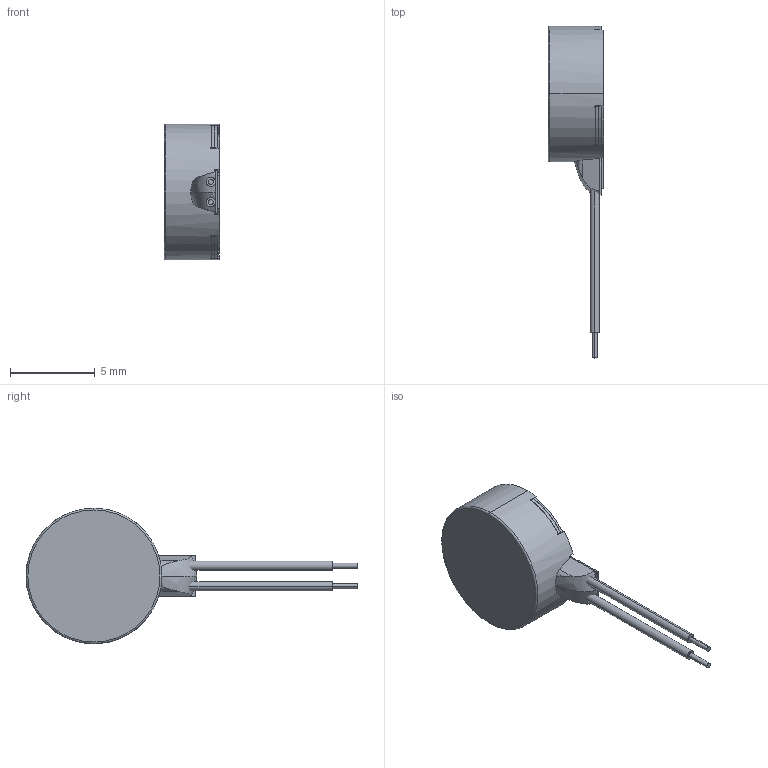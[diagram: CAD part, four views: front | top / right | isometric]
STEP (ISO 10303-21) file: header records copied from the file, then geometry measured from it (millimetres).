
FILE_DESCRIPTION(('FreeCAD Model'),'2;1');
FILE_NAME('Open CASCADE Shape Model','2026-06-02T18:00:03',(''),(''), 'Open CASCADE STEP processor 7.8','FreeCAD','Unknown');
FILE_SCHEMA(('AUTOMOTIVE_DESIGN { 1 0 10303 214 1 1 1 1 }'));
Length unit declared in the file: millimetre
Products named in the file (8): VG0832012_asm.stp; DOWN-CASE-B1.stp; FPCB-FP82.stp; SPRING.stp; UP-CASE-B1.stp; BLUE-LEAD-WIRE.stp; RED-LEAD-WIRE.stp; UV-ADHESIVE.stp
Assembly tree (7 placements, depth 2):
  VG0832012_asm.stp
    DOWN-CASE-B1.stp
    FPCB-FP82.stp
    SPRING.stp
    UP-CASE-B1.stp
    BLUE-LEAD-WIRE.stp
    RED-LEAD-WIRE.stp
    UV-ADHESIVE.stp
Bounding box: 3.28 x 19.61 x 8 mm (x, y, z)
Volume: 38.1 mm3; surface area: 481.7 mm2
Topology: 7 solids, 7 shells, 235 faces, 636 edges, 419 vertices
Faces by surface type: plane 108, cylinder 98, torus 15, bspline 10, cone 4
Entity records: 8316 total; most frequent: CARTESIAN_POINT 2116, DIRECTION 1274, ORIENTED_EDGE 1272, EDGE_CURVE 636, AXIS2_PLACEMENT_3D 472, VERTEX_POINT 419, LINE 330, VECTOR 330
